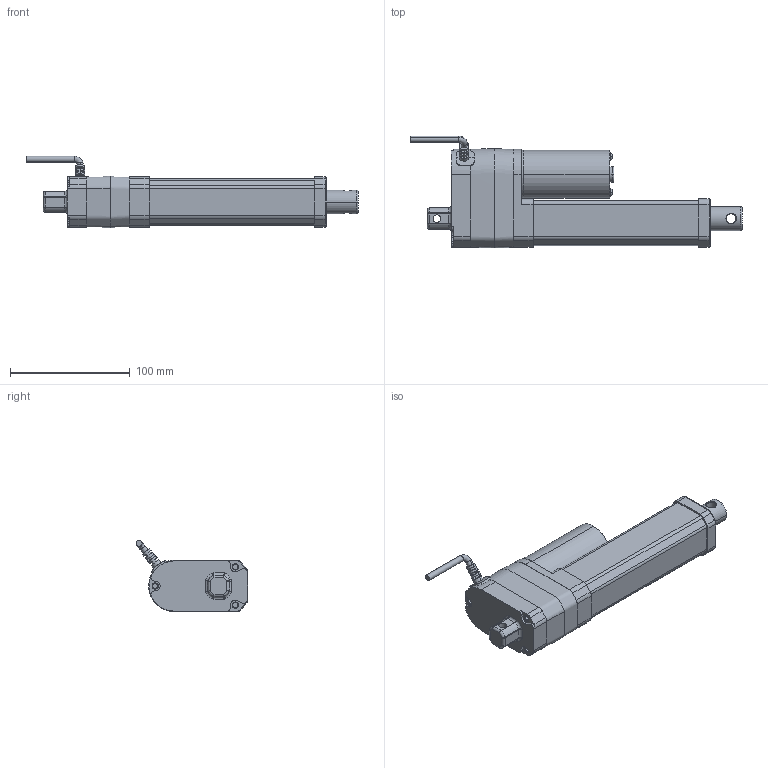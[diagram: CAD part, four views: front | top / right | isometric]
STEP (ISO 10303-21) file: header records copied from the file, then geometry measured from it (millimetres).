
FILE_DESCRIPTION((''),' ');
FILE_NAME('dszy11_100_pot.stp',' ',('r'),('r'),' ','ACIS 14.0',' ');
FILE_SCHEMA(('automotive_design'));
Length unit declared in the file: inch
Products named in the file (3): DSZY11-POT-100
Bounding box: 277.45 x 93.39 x 59.66 mm (x, y, z)
Volume: 362755.6 mm3; surface area: 93825.8 mm2
Topology: 3 solids, 3 shells, 320 faces, 842 edges, 551 vertices
Faces by surface type: cylinder 130, plane 121, torus 32, cone 20, bspline 13, sphere 4
Entity records: 13310 total; most frequent: CARTESIAN_POINT 2632, DIRECTION 1741, ORIENTED_EDGE 1672, EDGE_CURVE 836, AXIS2_PLACEMENT_3D 679, VERTEX_POINT 551, LINE 383, VECTOR 383
